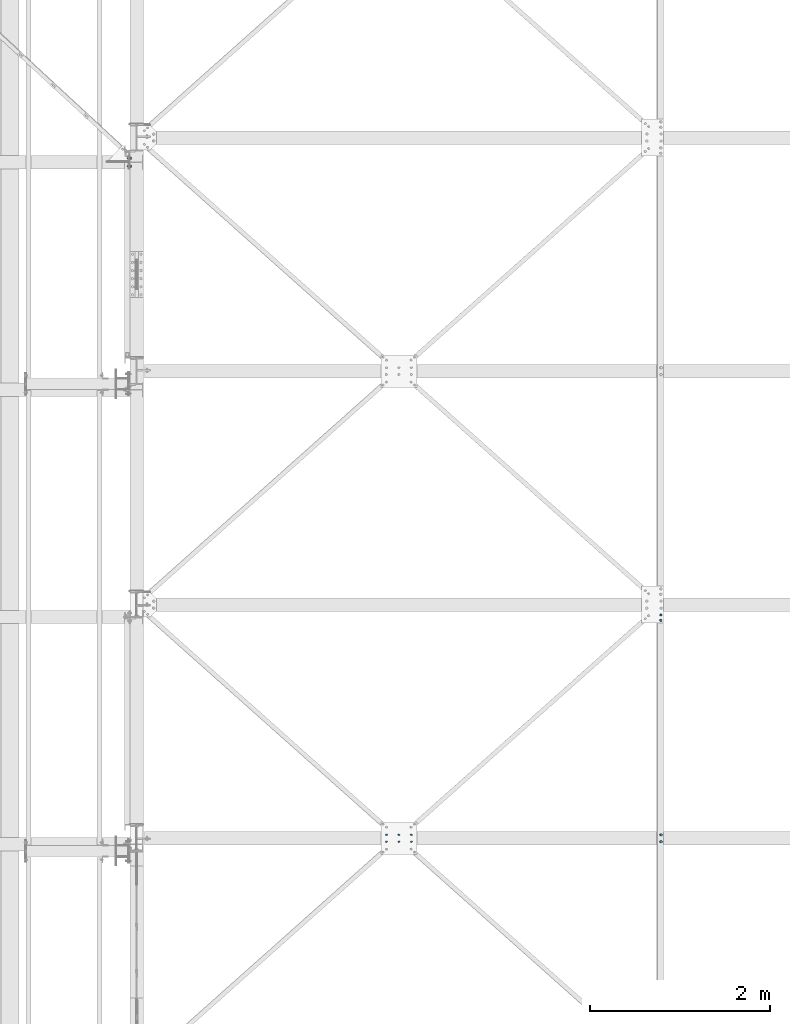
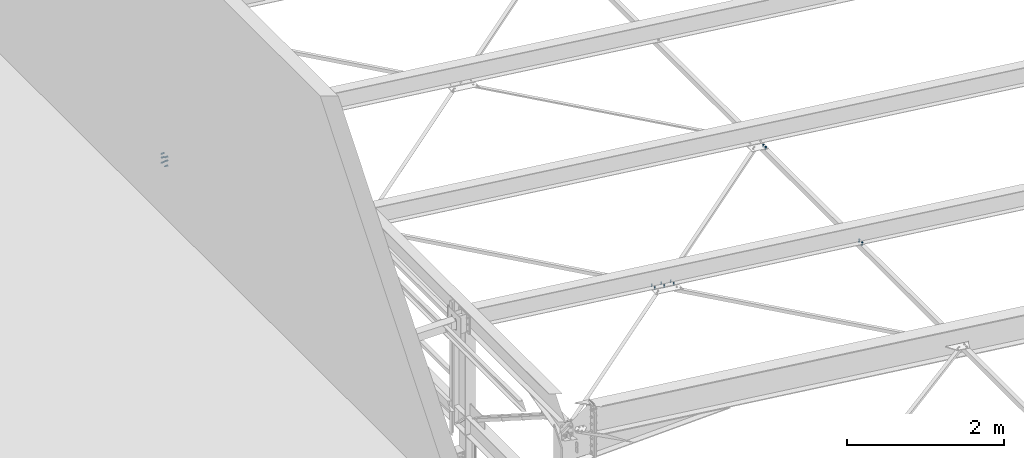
# One storey, part 101 of 3134: 4 mechanical fasteners, 4 elements without a shape of their own.
"""IFC2X3 building model written with IfcOpenShell, lengths in millimetres."""

from ifc_helpers import new_model, si_unit, frame, origin_with_axes, place, context, subcontext, project, spatial, faceted_brep, source, transform, mapped, material, type_object, element, aggregate, save


model = new_model("IFC2X3")

# Units and contexts
model_context = context("Model", 3, precision=1e-05, world=origin_with_axes())
body_context = subcontext(model_context, "Body", "Model", "MODEL_VIEW")
ifc_project = project(units=[si_unit("LENGTHUNIT", "METRE", prefix="MILLI"), si_unit("AREAUNIT", "SQUARE_METRE"), si_unit("VOLUMEUNIT", "CUBIC_METRE"), si_unit("MASSUNIT", "GRAM", prefix="KILO"), si_unit("TIMEUNIT", "SECOND"), si_unit("PLANEANGLEUNIT", "RADIAN"), si_unit("SOLIDANGLEUNIT", "STERADIAN"), si_unit("THERMODYNAMICTEMPERATUREUNIT", "DEGREE_CELSIUS"), si_unit("LUMINOUSINTENSITYUNIT", "LUMEN")], contexts=[model_context])

# Site, building, storey
site_placement = place(None, origin_with_axes())
site = spatial("IfcSite", under=ifc_project, at=site_placement, CompositionType="ELEMENT")
building_placement = place(site_placement, origin_with_axes())
building = spatial("IfcBuilding", under=site, at=building_placement, Name="Undefined", CompositionType="ELEMENT")
storey_placement = place(building_placement, origin_with_axes())
storey = spatial("IfcBuildingStorey", under=building, at=storey_placement, Name="Undefined", CompositionType="ELEMENT", Elevation=0.0)

# Assembly, mechanical fastener
assembly_1_placement = place(storey_placement, origin_with_axes())
assembly_1 = element("IfcElementAssembly", 1, at=assembly_1_placement, inside=storey, AssemblyPlace="NOTDEFINED", PredefinedType="RIGID_FRAME")
ifc_material = material(Name="8.8")
mechanical_fastener_type = type_object("IfcMechanicalFastenerType", Name="Bolt assembly")
shared_shape_1 = source(origin_with_axes(), body_context, "Body", "Brep", [
    faceted_brep([(13.856406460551, -19.199990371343, 0.0), (6.92820323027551, -19.199990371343, 12.0), (-6.92820323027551, -19.199990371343, 12.0), (-13.856406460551, -19.199990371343, 1.69692038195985e-15), (-6.92820323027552, -19.199990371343, -12.0), (6.9282032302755, -19.199990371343, -12.0), (6.9282032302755, -9.19999037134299, -12.0), (-6.92820323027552, -9.19999037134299, -12.0), (-13.856406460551, -9.19999037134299, 1.69692038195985e-15), (-6.92820323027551, -9.19999037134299, 12.0), (6.92820323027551, -9.19999037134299, 12.0), (13.856406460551, -9.19999037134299, 0.0), (8.0, -9.19999037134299, 0.0), (6.92820323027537, -9.19999037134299, 4.00000000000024), (3.99999999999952, -9.19999037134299, 6.92820323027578), (-8.29068785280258e-13, -9.19999037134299, 8.0), (-4.00000000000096, -9.19999037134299, 6.92820323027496), (-6.9282032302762, -9.19999037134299, 3.99999999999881), (-8.0, -9.19999037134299, -1.65813757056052e-12), (-6.92820323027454, -9.19999037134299, -4.00000000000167), (-3.99999999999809, -9.19999037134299, -6.92820323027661), (2.47832457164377e-12, -9.19999037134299, -8.0), (4.00000000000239, -9.19999037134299, -6.92820323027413), (6.92820323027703, -9.19999037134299, -3.99999999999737), (6.92820323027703, 35.8000002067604, -3.99999999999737), (4.00000000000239, 35.8000002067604, -6.92820323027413), (2.47832457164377e-12, 35.8000002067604, -8.0), (-3.99999999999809, 35.8000002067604, -6.92820323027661), (-6.92820323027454, 35.8000002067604, -4.00000000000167), (-8.0, 35.8000002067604, -1.65813757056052e-12), (-6.9282032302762, 35.8000002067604, 3.99999999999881), (-4.00000000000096, 35.8000002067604, 6.92820323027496), (-8.29068785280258e-13, 35.8000002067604, 8.0), (3.99999999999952, 35.8000002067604, 6.92820323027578), (6.92820323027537, 35.8000002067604, 4.00000000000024), (8.0, 35.8000002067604, 0.0), (13.856406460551, 14.9999995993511, 0.0), (6.92820323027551, 14.9999995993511, 12.0), (-6.92820323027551, 14.9999995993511, 12.0), (-13.856406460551, 14.9999995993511, 1.69692038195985e-15), (-6.92820323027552, 14.9999995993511, -12.0), (6.9282032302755, 14.9999995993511, -12.0), (6.9282032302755, 27.9999995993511, -12.0), (-6.92820323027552, 27.9999995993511, -12.0), (-13.856406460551, 27.9999995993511, 1.69692038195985e-15), (-6.92820323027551, 27.9999995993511, 12.0), (6.92820323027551, 27.9999995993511, 12.0), (13.856406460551, 27.9999995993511, 0.0)], [[[0, 1, 2, 3, 4, 5]], [[6, 7, 8, 9, 10, 11]], [[0, 11, 10, 1]], [[1, 10, 9, 2]], [[2, 9, 8, 3]], [[3, 8, 7, 4]], [[4, 7, 6, 5]], [[5, 6, 11, 0]], [[12, 13, 14, 15, 16, 17, 18, 19, 20, 21, 22, 23]], [[24, 25, 26, 27, 28, 29, 30, 31, 32, 33, 34, 35]], [[12, 35, 34, 13]], [[13, 34, 33, 14]], [[14, 33, 32, 15]], [[15, 32, 31, 16]], [[16, 31, 30, 17]], [[17, 30, 29, 18]], [[18, 29, 28, 19]], [[19, 28, 27, 20]], [[20, 27, 26, 21]], [[21, 26, 25, 22]], [[22, 25, 24, 23]], [[23, 24, 35, 12]], [[36, 37, 38, 39, 40, 41]], [[42, 43, 44, 45, 46, 47]], [[36, 47, 46, 37]], [[37, 46, 45, 38]], [[38, 45, 44, 39]], [[39, 44, 43, 40]], [[40, 43, 42, 41]], [[41, 42, 47, 36]]]),
    faceted_brep([(9.0, -9.09999037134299, 0.0), (7.79422863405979, -9.09999037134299, 4.50000000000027), (4.49999999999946, -9.09999037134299, 7.79422863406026), (-9.3270238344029e-13, -9.09999037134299, 9.0), (-4.50000000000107, -9.09999037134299, 7.79422863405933), (-7.79422863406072, -9.09999037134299, 4.49999999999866), (-9.0, -9.09999037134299, -1.86540476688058e-12), (-7.79422863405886, -9.09999037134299, -4.50000000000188), (-4.49999999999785, -9.09999037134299, -7.79422863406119), (2.78811514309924e-12, -9.09999037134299, -9.0), (4.50000000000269, -9.09999037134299, -7.7942286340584), (7.79422863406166, -9.09999037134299, -4.49999999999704), (7.79422863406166, 0.100000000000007, -4.49999999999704), (4.50000000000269, 0.100000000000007, -7.7942286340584), (2.78811514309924e-12, 0.100000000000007, -9.0), (-4.49999999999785, 0.100000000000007, -7.79422863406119), (-7.79422863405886, 0.100000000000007, -4.50000000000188), (-9.0, 0.100000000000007, -1.86540476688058e-12), (-7.79422863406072, 0.100000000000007, 4.49999999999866), (-4.50000000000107, 0.100000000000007, 7.79422863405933), (-9.3270238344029e-13, 0.100000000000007, 9.0), (4.49999999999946, 0.100000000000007, 7.79422863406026), (7.79422863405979, 0.100000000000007, 4.50000000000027), (9.0, 0.100000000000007, 0.0), (9.0, 7.9, 0.0), (7.79422863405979, 7.9, 4.50000000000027), (4.49999999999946, 7.9, 7.79422863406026), (-9.3270238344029e-13, 7.9, 9.0), (-4.50000000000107, 7.9, 7.79422863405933), (-7.79422863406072, 7.9, 4.49999999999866), (-9.0, 7.9, -1.86540476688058e-12), (-7.79422863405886, 7.9, -4.50000000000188), (-4.49999999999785, 7.9, -7.79422863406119), (2.78811514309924e-12, 7.9, -9.0), (4.50000000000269, 7.9, -7.7942286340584), (7.79422863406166, 7.9, -4.49999999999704), (7.79422863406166, 14.9999995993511, -4.49999999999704), (4.50000000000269, 14.9999995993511, -7.7942286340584), (2.78811514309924e-12, 14.9999995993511, -9.0), (-4.49999999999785, 14.9999995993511, -7.79422863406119), (-7.79422863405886, 14.9999995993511, -4.50000000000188), (-9.0, 14.9999995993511, -1.86540476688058e-12), (-7.79422863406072, 14.9999995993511, 4.49999999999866), (-4.50000000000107, 14.9999995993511, 7.79422863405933), (-9.3270238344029e-13, 14.9999995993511, 9.0), (4.49999999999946, 14.9999995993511, 7.79422863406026), (7.79422863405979, 14.9999995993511, 4.50000000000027), (9.0, 14.9999995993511, 0.0)], [[[0, 1, 2, 3, 4, 5, 6, 7, 8, 9, 10, 11]], [[12, 13, 14, 15, 16, 17, 18, 19, 20, 21, 22, 23]], [[0, 23, 22, 1]], [[1, 22, 21, 2]], [[2, 21, 20, 3]], [[3, 20, 19, 4]], [[4, 19, 18, 5]], [[5, 18, 17, 6]], [[6, 17, 16, 7]], [[7, 16, 15, 8]], [[8, 15, 14, 9]], [[9, 14, 13, 10]], [[10, 13, 12, 11]], [[11, 12, 23, 0]], [[24, 25, 26, 27, 28, 29, 30, 31, 32, 33, 34, 35]], [[36, 37, 38, 39, 40, 41, 42, 43, 44, 45, 46, 47]], [[24, 47, 46, 25]], [[25, 46, 45, 26]], [[26, 45, 44, 27]], [[27, 44, 43, 28]], [[28, 43, 42, 29]], [[29, 42, 41, 30]], [[30, 41, 40, 31]], [[31, 40, 39, 32]], [[32, 39, 38, 33]], [[33, 38, 37, 34]], [[34, 37, 36, 35]], [[35, 36, 47, 24]]]),
])
mechanical_fastener_1_placement = place(assembly_1_placement, frame((26687.9849612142, 22012.0, 4806.73358922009), z_axis=(-0.992623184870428, 0.0, 0.121240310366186), x_axis=(0.0, 1.0, 0.0)))
mechanical_fastener_1 = element("IfcMechanicalFastener", 2, at=mechanical_fastener_1_placement, type_object=mechanical_fastener_type, material=ifc_material, Name="Bolt assembly", NominalDiameter=16.0, NominalLength=45.0, context=body_context, shape_type="MappedRepresentation", body=[
    mapped(shared_shape_1, transform((0.0, 0.0, 0.0))),
    mapped(shared_shape_1, transform((76.0, 0.0, 0.0))),
])
aggregate(assembly_1, [mechanical_fastener_1])

assembly_2_placement = place(storey_placement, origin_with_axes())
assembly_2 = element("IfcElementAssembly", 3, at=assembly_2_placement, inside=storey, Name="PL8", AssemblyPlace="NOTDEFINED", PredefinedType="RIGID_FRAME")
shared_shape_2 = source(origin_with_axes(), body_context, "Body", "Brep", [
    faceted_brep([(13.856406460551, -10.0, 0.0), (6.92820323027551, -10.0, 12.0), (-6.92820323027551, -10.0, 12.0), (-13.856406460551, -10.0, 1.69692038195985e-15), (-6.92820323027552, -10.0, -12.0), (6.9282032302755, -10.0, -12.0), (6.9282032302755, 0.0, -12.0), (-6.92820323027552, 0.0, -12.0), (-13.856406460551, 0.0, 1.69692038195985e-15), (-6.92820323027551, 0.0, 12.0), (6.92820323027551, 0.0, 12.0), (13.856406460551, 0.0, 0.0), (8.0, 0.0, 0.0), (6.92820323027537, 0.0, 4.00000000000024), (3.99999999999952, 0.0, 6.92820323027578), (-8.29068785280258e-13, 0.0, 8.0), (-4.00000000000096, 0.0, 6.92820323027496), (-6.9282032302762, 0.0, 3.99999999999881), (-8.0, 0.0, -1.65813757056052e-12), (-6.92820323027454, 0.0, -4.00000000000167), (-3.99999999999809, 0.0, -6.92820323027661), (2.47832457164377e-12, 0.0, -8.0), (4.00000000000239, 0.0, -6.92820323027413), (6.92820323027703, 0.0, -3.99999999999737), (6.92820323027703, 35.0000000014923, -3.99999999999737), (4.00000000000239, 35.0000000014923, -6.92820323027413), (2.47832457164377e-12, 35.0000000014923, -8.0), (-3.99999999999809, 35.0000000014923, -6.92820323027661), (-6.92820323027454, 35.0000000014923, -4.00000000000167), (-8.0, 35.0000000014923, -1.65813757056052e-12), (-6.9282032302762, 35.0000000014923, 3.99999999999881), (-4.00000000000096, 35.0000000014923, 6.92820323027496), (-8.29068785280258e-13, 35.0000000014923, 8.0), (3.99999999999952, 35.0000000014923, 6.92820323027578), (6.92820323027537, 35.0000000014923, 4.00000000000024), (8.0, 35.0000000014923, 0.0), (13.856406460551, 14.9999995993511, 0.0), (6.92820323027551, 14.9999995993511, 12.0), (-6.92820323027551, 14.9999995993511, 12.0), (-13.856406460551, 14.9999995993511, 1.69692038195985e-15), (-6.92820323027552, 14.9999995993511, -12.0), (6.9282032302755, 14.9999995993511, -12.0), (6.9282032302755, 27.9999995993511, -12.0), (-6.92820323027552, 27.9999995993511, -12.0), (-13.856406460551, 27.9999995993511, 1.69692038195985e-15), (-6.92820323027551, 27.9999995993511, 12.0), (6.92820323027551, 27.9999995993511, 12.0), (13.856406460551, 27.9999995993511, 0.0)], [[[0, 1, 2, 3, 4, 5]], [[6, 7, 8, 9, 10, 11]], [[0, 11, 10, 1]], [[1, 10, 9, 2]], [[2, 9, 8, 3]], [[3, 8, 7, 4]], [[4, 7, 6, 5]], [[5, 6, 11, 0]], [[12, 13, 14, 15, 16, 17, 18, 19, 20, 21, 22, 23]], [[24, 25, 26, 27, 28, 29, 30, 31, 32, 33, 34, 35]], [[12, 35, 34, 13]], [[13, 34, 33, 14]], [[14, 33, 32, 15]], [[15, 32, 31, 16]], [[16, 31, 30, 17]], [[17, 30, 29, 18]], [[18, 29, 28, 19]], [[19, 28, 27, 20]], [[20, 27, 26, 21]], [[21, 26, 25, 22]], [[22, 25, 24, 23]], [[23, 24, 35, 12]], [[36, 37, 38, 39, 40, 41]], [[42, 43, 44, 45, 46, 47]], [[36, 47, 46, 37]], [[37, 46, 45, 38]], [[38, 45, 44, 39]], [[39, 44, 43, 40]], [[40, 43, 42, 41]], [[41, 42, 47, 36]]]),
    faceted_brep([(9.0, 7.9, 0.0), (7.79422863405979, 7.9, 4.50000000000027), (4.49999999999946, 7.9, 7.79422863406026), (-9.3270238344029e-13, 7.9, 9.0), (-4.50000000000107, 7.9, 7.79422863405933), (-7.79422863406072, 7.9, 4.49999999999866), (-9.0, 7.9, -1.86540476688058e-12), (-7.79422863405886, 7.9, -4.50000000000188), (-4.49999999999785, 7.9, -7.79422863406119), (2.78811514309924e-12, 7.9, -9.0), (4.50000000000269, 7.9, -7.7942286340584), (7.79422863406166, 7.9, -4.49999999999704), (7.79422863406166, 14.9999995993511, -4.49999999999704), (4.50000000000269, 14.9999995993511, -7.7942286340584), (2.78811514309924e-12, 14.9999995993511, -9.0), (-4.49999999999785, 14.9999995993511, -7.79422863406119), (-7.79422863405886, 14.9999995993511, -4.50000000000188), (-9.0, 14.9999995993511, -1.86540476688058e-12), (-7.79422863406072, 14.9999995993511, 4.49999999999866), (-4.50000000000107, 14.9999995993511, 7.79422863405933), (-9.3270238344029e-13, 14.9999995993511, 9.0), (4.49999999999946, 14.9999995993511, 7.79422863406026), (7.79422863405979, 14.9999995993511, 4.50000000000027), (9.0, 14.9999995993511, 0.0), (9.0, 0.100000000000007, 0.0), (7.79422863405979, 0.100000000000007, 4.50000000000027), (4.49999999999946, 0.100000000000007, 7.79422863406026), (-9.3270238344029e-13, 0.100000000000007, 9.0), (-4.50000000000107, 0.100000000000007, 7.79422863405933), (-7.79422863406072, 0.100000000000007, 4.49999999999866), (-9.0, 0.100000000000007, -1.86540476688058e-12), (-7.79422863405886, 0.100000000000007, -4.50000000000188), (-4.49999999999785, 0.100000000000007, -7.79422863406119), (2.78811514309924e-12, 0.100000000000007, -9.0), (4.50000000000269, 0.100000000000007, -7.7942286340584), (7.79422863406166, 0.100000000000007, -4.49999999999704), (7.79422863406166, 8.1, -4.49999999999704), (4.50000000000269, 8.1, -7.7942286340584), (2.78811514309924e-12, 8.1, -9.0), (-4.49999999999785, 8.1, -7.79422863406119), (-7.79422863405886, 8.1, -4.50000000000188), (-9.0, 8.1, -1.86540476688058e-12), (-7.79422863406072, 8.1, 4.49999999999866), (-4.50000000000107, 8.1, 7.79422863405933), (-9.3270238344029e-13, 8.1, 9.0), (4.49999999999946, 8.1, 7.79422863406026), (7.79422863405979, 8.1, 4.50000000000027), (9.0, 8.1, 0.0)], [[[0, 1, 2, 3, 4, 5, 6, 7, 8, 9, 10, 11]], [[12, 13, 14, 15, 16, 17, 18, 19, 20, 21, 22, 23]], [[0, 23, 22, 1]], [[1, 22, 21, 2]], [[2, 21, 20, 3]], [[3, 20, 19, 4]], [[4, 19, 18, 5]], [[5, 18, 17, 6]], [[6, 17, 16, 7]], [[7, 16, 15, 8]], [[8, 15, 14, 9]], [[9, 14, 13, 10]], [[10, 13, 12, 11]], [[11, 12, 23, 0]], [[24, 25, 26, 27, 28, 29, 30, 31, 32, 33, 34, 35]], [[36, 37, 38, 39, 40, 41, 42, 43, 44, 45, 46, 47]], [[24, 47, 46, 25]], [[25, 46, 45, 26]], [[26, 45, 44, 27]], [[27, 44, 43, 28]], [[28, 43, 42, 29]], [[29, 42, 41, 30]], [[30, 41, 40, 31]], [[31, 40, 39, 32]], [[32, 39, 38, 33]], [[33, 38, 37, 34]], [[34, 37, 36, 35]], [[35, 36, 47, 24]]]),
])
mechanical_fastener_2_placement = place(assembly_2_placement, frame((26687.9849612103, 24535.0, 4806.73358922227), z_axis=(0.992623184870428, 0.0, -0.121240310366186), x_axis=(0.0, -1.0, 0.0)))
mechanical_fastener_2 = element("IfcMechanicalFastener", 4, at=mechanical_fastener_2_placement, type_object=mechanical_fastener_type, material=ifc_material, Name="Bolt assembly", NominalDiameter=16.0, NominalLength=35.0, context=body_context, shape_type="MappedRepresentation", body=[
    mapped(shared_shape_2, transform((0.0, 0.0, 0.0))),
    mapped(shared_shape_2, transform((59.9999999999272, 0.0, 5.40239852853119e-10))),
])
aggregate(assembly_2, [mechanical_fastener_2])

assembly_3_placement = place(storey_placement, origin_with_axes())
assembly_3 = element("IfcElementAssembly", 5, at=assembly_3_placement, inside=storey, Name="300", AssemblyPlace="NOTDEFINED", PredefinedType="RIGID_FRAME")
shared_shape_3 = source(origin_with_axes(), body_context, "Body", "Brep", [
    faceted_brep([(10.9696551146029, -17.1999998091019, 0.0), (5.48482755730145, -17.1999998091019, 9.5), (-5.48482755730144, -17.1999998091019, 9.5), (-10.9696551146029, -17.1999998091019, 1.34339530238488e-15), (-5.48482755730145, -17.1999998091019, -9.5), (5.48482755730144, -17.1999998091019, -9.50000000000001), (5.48482755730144, -9.19999978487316, -9.50000000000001), (-5.48482755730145, -9.19999978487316, -9.5), (-10.9696551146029, -9.19999978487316, 1.34339530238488e-15), (-5.48482755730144, -9.19999978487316, 9.5), (5.48482755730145, -9.19999978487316, 9.5), (10.9696551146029, -9.19999978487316, 0.0), (6.0, -9.19999978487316, 0.0), (5.19615242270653, -9.19999978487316, 3.00000000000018), (2.99999999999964, -9.19999978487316, 5.19615242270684), (-6.21801588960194e-13, -9.19999978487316, 6.0), (-3.00000000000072, -9.19999978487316, 5.19615242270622), (-5.19615242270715, -9.19999978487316, 2.9999999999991), (-6.0, -9.19999978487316, -1.24360317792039e-12), (-5.19615242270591, -9.19999978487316, -3.00000000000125), (-2.99999999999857, -9.19999978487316, -5.19615242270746), (1.85874342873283e-12, -9.19999978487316, -6.0), (3.00000000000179, -9.19999978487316, -5.1961524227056), (5.19615242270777, -9.19999978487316, -2.99999999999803), (5.19615242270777, 25.8000002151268, -2.99999999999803), (3.00000000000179, 25.8000002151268, -5.1961524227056), (1.85874342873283e-12, 25.8000002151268, -6.0), (-2.99999999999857, 25.8000002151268, -5.19615242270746), (-5.19615242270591, 25.8000002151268, -3.00000000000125), (-6.0, 25.8000002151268, -1.24360317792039e-12), (-5.19615242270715, 25.8000002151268, 2.9999999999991), (-3.00000000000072, 25.8000002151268, 5.19615242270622), (-6.21801588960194e-13, 25.8000002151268, 6.0), (2.99999999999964, 25.8000002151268, 5.19615242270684), (5.19615242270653, 25.8000002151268, 3.00000000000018), (6.0, 25.8000002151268, 0.0), (10.9696551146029, 8.0, 0.0), (5.48482755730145, 8.0, 9.5), (-5.48482755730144, 8.0, 9.5), (-10.9696551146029, 8.0, 1.34339530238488e-15), (-5.48482755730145, 8.0, -9.5), (5.48482755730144, 8.0, -9.50000000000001), (5.48482755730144, 18.0, -9.50000000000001), (-5.48482755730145, 18.0, -9.5), (-10.9696551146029, 18.0, 1.34339530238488e-15), (-5.48482755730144, 18.0, 9.5), (5.48482755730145, 18.0, 9.5), (10.9696551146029, 18.0, 0.0)], [[[0, 1, 2, 3, 4, 5]], [[6, 7, 8, 9, 10, 11]], [[0, 11, 10, 1]], [[1, 10, 9, 2]], [[2, 9, 8, 3]], [[3, 8, 7, 4]], [[4, 7, 6, 5]], [[5, 6, 11, 0]], [[12, 13, 14, 15, 16, 17, 18, 19, 20, 21, 22, 23]], [[24, 25, 26, 27, 28, 29, 30, 31, 32, 33, 34, 35]], [[12, 35, 34, 13]], [[13, 34, 33, 14]], [[14, 33, 32, 15]], [[15, 32, 31, 16]], [[16, 31, 30, 17]], [[17, 30, 29, 18]], [[18, 29, 28, 19]], [[19, 28, 27, 20]], [[20, 27, 26, 21]], [[21, 26, 25, 22]], [[22, 25, 24, 23]], [[23, 24, 35, 12]], [[36, 37, 38, 39, 40, 41]], [[42, 43, 44, 45, 46, 47]], [[36, 47, 46, 37]], [[37, 46, 45, 38]], [[38, 45, 44, 39]], [[39, 44, 43, 40]], [[40, 43, 42, 41]], [[41, 42, 47, 36]]]),
    faceted_brep([(7.0, -0.1, 0.0), (6.06217782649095, -0.1, 3.50000000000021), (3.49999999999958, -0.1, 6.06217782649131), (-7.25435187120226e-13, -0.1, 7.0), (-3.50000000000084, -0.1, 6.06217782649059), (-6.06217782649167, -0.1, 3.49999999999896), (-7.0, -0.1, -1.45087037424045e-12), (-6.06217782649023, -0.1, -3.50000000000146), (-3.49999999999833, -0.1, -6.06217782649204), (2.1685340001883e-12, -0.1, -7.0), (3.50000000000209, -0.1, -6.06217782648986), (6.0621778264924, -0.1, -3.4999999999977), (6.0621778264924, 8.0000000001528, -3.4999999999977), (3.50000000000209, 8.0000000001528, -6.06217782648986), (2.1685340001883e-12, 8.0000000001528, -7.0), (-3.49999999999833, 8.0000000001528, -6.06217782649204), (-6.06217782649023, 8.0000000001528, -3.50000000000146), (-7.0, 8.0000000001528, -1.45087037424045e-12), (-6.06217782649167, 8.0000000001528, 3.49999999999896), (-3.50000000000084, 8.0000000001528, 6.06217782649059), (-7.25435187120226e-13, 8.0000000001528, 7.0), (3.49999999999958, 8.0000000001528, 6.06217782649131), (6.06217782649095, 8.0000000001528, 3.50000000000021), (7.0, 8.0000000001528, 0.0), (7.0, -9.09999980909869, 0.0), (6.06217782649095, -9.09999980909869, 3.50000000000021), (3.49999999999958, -9.09999980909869, 6.06217782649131), (-7.25435187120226e-13, -9.09999980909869, 7.0), (-3.50000000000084, -9.09999980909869, 6.06217782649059), (-6.06217782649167, -9.09999980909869, 3.49999999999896), (-7.0, -9.09999980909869, -1.45087037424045e-12), (-6.06217782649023, -9.09999980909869, -3.50000000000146), (-3.49999999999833, -9.09999980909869, -6.06217782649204), (2.1685340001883e-12, -9.09999980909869, -7.0), (3.50000000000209, -9.09999980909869, -6.06217782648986), (6.0621778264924, -9.09999980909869, -3.4999999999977), (6.0621778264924, 0.0999999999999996, -3.4999999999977), (3.50000000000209, 0.0999999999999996, -6.06217782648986), (2.1685340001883e-12, 0.0999999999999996, -7.0), (-3.49999999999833, 0.0999999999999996, -6.06217782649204), (-6.06217782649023, 0.0999999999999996, -3.50000000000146), (-7.0, 0.0999999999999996, -1.45087037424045e-12), (-6.06217782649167, 0.0999999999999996, 3.49999999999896), (-3.50000000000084, 0.0999999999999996, 6.06217782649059), (-7.25435187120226e-13, 0.0999999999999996, 7.0), (3.49999999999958, 0.0999999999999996, 6.06217782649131), (6.06217782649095, 0.0999999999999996, 3.50000000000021), (7.0, 0.0999999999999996, 0.0)], [[[0, 1, 2, 3, 4, 5, 6, 7, 8, 9, 10, 11]], [[12, 13, 14, 15, 16, 17, 18, 19, 20, 21, 22, 23]], [[0, 23, 22, 1]], [[1, 22, 21, 2]], [[2, 21, 20, 3]], [[3, 20, 19, 4]], [[4, 19, 18, 5]], [[5, 18, 17, 6]], [[6, 17, 16, 7]], [[7, 16, 15, 8]], [[8, 15, 14, 9]], [[9, 14, 13, 10]], [[10, 13, 12, 11]], [[11, 12, 23, 0]], [[24, 25, 26, 27, 28, 29, 30, 31, 32, 33, 34, 35]], [[36, 37, 38, 39, 40, 41, 42, 43, 44, 45, 46, 47]], [[24, 47, 46, 25]], [[25, 46, 45, 26]], [[26, 45, 44, 27]], [[27, 44, 43, 28]], [[28, 43, 42, 29]], [[29, 42, 41, 30]], [[30, 41, 40, 31]], [[31, 40, 39, 32]], [[32, 39, 38, 33]], [[33, 38, 37, 34]], [[34, 37, 36, 35]], [[35, 36, 47, 24]]]),
])
mechanical_fastener_3_placement = place(assembly_3_placement, frame((23908.2022067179, 22050.0, 5146.25993624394), z_axis=(0.0, -1.0, 0.0), x_axis=(-0.992623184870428, 0.0, 0.121240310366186)))
mechanical_fastener_3 = element("IfcMechanicalFastener", 6, at=mechanical_fastener_3_placement, type_object=mechanical_fastener_type, material=ifc_material, Name="Bolt assembly", NominalDiameter=12.0, NominalLength=35.0, context=body_context, shape_type="MappedRepresentation", body=[
    mapped(shared_shape_3, transform((0.0, 0.0, -38.0))),
    mapped(shared_shape_3, transform((140.000000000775, 5.85714587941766e-10, -38.0))),
    mapped(shared_shape_3, transform((279.999999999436, -4.74756234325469e-10, -38.0))),
    mapped(shared_shape_3, transform((0.0, 0.0, 38.0))),
    mapped(shared_shape_3, transform((140.000000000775, 5.85714587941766e-10, 38.0))),
    mapped(shared_shape_3, transform((279.999999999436, -4.74756234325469e-10, 38.0))),
])
aggregate(assembly_3, [mechanical_fastener_3])

assembly_4_placement = place(storey_placement, origin_with_axes())
assembly_4 = element("IfcElementAssembly", 7, at=assembly_4_placement, inside=storey, Name="300", AssemblyPlace="NOTDEFINED", PredefinedType="RIGID_FRAME")
shared_shape_4 = source(origin_with_axes(), body_context, "Body", "Brep", [
    faceted_brep([(13.856406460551, -28.9999999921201, 0.0), (6.92820323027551, -28.9999999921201, 12.0), (-6.92820323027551, -28.9999999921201, 12.0), (-13.856406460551, -28.9999999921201, 1.69692038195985e-15), (-6.92820323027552, -28.9999999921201, -12.0), (6.9282032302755, -28.9999999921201, -12.0), (6.9282032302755, -19.0, -12.0), (-6.92820323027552, -19.0, -12.0), (-13.856406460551, -19.0, 1.69692038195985e-15), (-6.92820323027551, -19.0, 12.0), (6.92820323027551, -19.0, 12.0), (13.856406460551, -19.0, 0.0), (8.0, -18.9999999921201, 0.0), (6.92820323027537, -18.9999999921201, 4.00000000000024), (3.99999999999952, -18.9999999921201, 6.92820323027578), (-8.29068785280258e-13, -18.9999999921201, 8.0), (-4.00000000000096, -18.9999999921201, 6.92820323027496), (-6.9282032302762, -18.9999999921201, 3.99999999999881), (-8.0, -18.9999999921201, -1.65813757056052e-12), (-6.92820323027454, -18.9999999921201, -4.00000000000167), (-3.99999999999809, -18.9999999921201, -6.92820323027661), (2.47832457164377e-12, -18.9999999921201, -8.0), (4.00000000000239, -18.9999999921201, -6.92820323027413), (6.92820323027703, -18.9999999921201, -3.99999999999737), (6.92820323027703, 21.0000000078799, -3.99999999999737), (4.00000000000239, 21.0000000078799, -6.92820323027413), (2.47832457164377e-12, 21.0000000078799, -8.0), (-3.99999999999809, 21.0000000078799, -6.92820323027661), (-6.92820323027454, 21.0000000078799, -4.00000000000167), (-8.0, 21.0000000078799, -1.65813757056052e-12), (-6.9282032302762, 21.0000000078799, 3.99999999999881), (-4.00000000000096, 21.0000000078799, 6.92820323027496), (-8.29068785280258e-13, 21.0000000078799, 8.0), (3.99999999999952, 21.0000000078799, 6.92820323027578), (6.92820323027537, 21.0000000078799, 4.00000000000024), (8.0, 21.0000000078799, 0.0), (13.856406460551, 0.0, 0.0), (6.92820323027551, 0.0, 12.0), (-6.92820323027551, 0.0, 12.0), (-13.856406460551, 0.0, 1.69692038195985e-15), (-6.92820323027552, 0.0, -12.0), (6.9282032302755, 0.0, -12.0), (6.9282032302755, 12.9999996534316, -12.0), (-6.92820323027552, 12.9999996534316, -12.0), (-13.856406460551, 12.9999996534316, 1.69692038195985e-15), (-6.92820323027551, 12.9999996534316, 12.0), (6.92820323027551, 12.9999996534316, 12.0), (13.856406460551, 12.9999996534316, 0.0)], [[[0, 1, 2, 3, 4, 5]], [[6, 7, 8, 9, 10, 11]], [[0, 11, 10, 1]], [[1, 10, 9, 2]], [[2, 9, 8, 3]], [[3, 8, 7, 4]], [[4, 7, 6, 5]], [[5, 6, 11, 0]], [[12, 13, 14, 15, 16, 17, 18, 19, 20, 21, 22, 23]], [[24, 25, 26, 27, 28, 29, 30, 31, 32, 33, 34, 35]], [[12, 35, 34, 13]], [[13, 34, 33, 14]], [[14, 33, 32, 15]], [[15, 32, 31, 16]], [[16, 31, 30, 17]], [[17, 30, 29, 18]], [[18, 29, 28, 19]], [[19, 28, 27, 20]], [[20, 27, 26, 21]], [[21, 26, 25, 22]], [[22, 25, 24, 23]], [[23, 24, 35, 12]], [[36, 37, 38, 39, 40, 41]], [[42, 43, 44, 45, 46, 47]], [[36, 47, 46, 37]], [[37, 46, 45, 38]], [[38, 45, 44, 39]], [[39, 44, 43, 40]], [[40, 43, 42, 41]], [[41, 42, 47, 36]]]),
    faceted_brep([(9.0, -18.8999999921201, 0.0), (7.79422863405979, -18.8999999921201, 4.50000000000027), (4.49999999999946, -18.8999999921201, 7.79422863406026), (-9.3270238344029e-13, -18.8999999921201, 9.0), (-4.50000000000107, -18.8999999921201, 7.79422863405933), (-7.79422863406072, -18.8999999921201, 4.49999999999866), (-9.0, -18.8999999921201, -1.86540476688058e-12), (-7.79422863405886, -18.8999999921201, -4.50000000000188), (-4.49999999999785, -18.8999999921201, -7.79422863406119), (2.78811514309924e-12, -18.8999999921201, -9.0), (4.50000000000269, -18.8999999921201, -7.7942286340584), (7.79422863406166, -18.8999999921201, -4.49999999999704), (7.79422863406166, -9.89999997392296, -4.49999999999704), (4.50000000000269, -9.89999997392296, -7.7942286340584), (2.78811514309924e-12, -9.89999997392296, -9.0), (-4.49999999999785, -9.89999997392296, -7.79422863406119), (-7.79422863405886, -9.89999997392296, -4.50000000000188), (-9.0, -9.89999997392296, -1.86540476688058e-12), (-7.79422863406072, -9.89999997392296, 4.49999999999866), (-4.50000000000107, -9.89999997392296, 7.79422863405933), (-9.3270238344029e-13, -9.89999997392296, 9.0), (4.49999999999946, -9.89999997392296, 7.79422863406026), (7.79422863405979, -9.89999997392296, 4.50000000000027), (9.0, -9.89999997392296, 0.0), (9.0, -10.1000003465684, 0.0), (7.79422863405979, -10.1000003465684, 4.50000000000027), (4.49999999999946, -10.1000003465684, 7.79422863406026), (-9.3270238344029e-13, -10.1000003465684, 9.0), (-4.50000000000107, -10.1000003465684, 7.79422863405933), (-7.79422863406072, -10.1000003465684, 4.49999999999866), (-9.0, -10.1000003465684, -1.86540476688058e-12), (-7.79422863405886, -10.1000003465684, -4.50000000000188), (-4.49999999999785, -10.1000003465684, -7.79422863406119), (2.78811514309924e-12, -10.1000003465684, -9.0), (4.50000000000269, -10.1000003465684, -7.7942286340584), (7.79422863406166, -10.1000003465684, -4.49999999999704), (7.79422863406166, -3.46568413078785e-07, -4.49999999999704), (4.50000000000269, -3.46568413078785e-07, -7.7942286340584), (2.78811514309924e-12, -3.46568413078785e-07, -9.0), (-4.49999999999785, -3.46568413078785e-07, -7.79422863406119), (-7.79422863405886, -3.46568413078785e-07, -4.50000000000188), (-9.0, -3.46568413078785e-07, -1.86540476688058e-12), (-7.79422863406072, -3.46568413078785e-07, 4.49999999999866), (-4.50000000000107, -3.46568413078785e-07, 7.79422863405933), (-9.3270238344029e-13, -3.46568413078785e-07, 9.0), (4.49999999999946, -3.46568413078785e-07, 7.79422863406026), (7.79422863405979, -3.46568413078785e-07, 4.50000000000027), (9.0, -3.46568413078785e-07, 0.0)], [[[0, 1, 2, 3, 4, 5, 6, 7, 8, 9, 10, 11]], [[12, 13, 14, 15, 16, 17, 18, 19, 20, 21, 22, 23]], [[0, 23, 22, 1]], [[1, 22, 21, 2]], [[2, 21, 20, 3]], [[3, 20, 19, 4]], [[4, 19, 18, 5]], [[5, 18, 17, 6]], [[6, 17, 16, 7]], [[7, 16, 15, 8]], [[8, 15, 14, 9]], [[9, 14, 13, 10]], [[10, 13, 12, 11]], [[11, 12, 23, 0]], [[24, 25, 26, 27, 28, 29, 30, 31, 32, 33, 34, 35]], [[36, 37, 38, 39, 40, 41, 42, 43, 44, 45, 46, 47]], [[24, 47, 46, 25]], [[25, 46, 45, 26]], [[26, 45, 44, 27]], [[27, 44, 43, 28]], [[28, 43, 42, 29]], [[29, 42, 41, 30]], [[30, 41, 40, 31]], [[31, 40, 39, 32]], [[32, 39, 38, 33]], [[33, 38, 37, 34]], [[34, 37, 36, 35]], [[35, 36, 47, 24]]]),
])
mechanical_fastener_4_placement = place(assembly_4_placement, frame((20764.0000000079, 29575.0, 3663.33404423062), z_axis=(0.0, 1.0, 0.0), x_axis=(0.0, 0.0, -1.0)))
mechanical_fastener_4 = element("IfcMechanicalFastener", 8, at=mechanical_fastener_4_placement, type_object=mechanical_fastener_type, material=ifc_material, Name="Bolt assembly", NominalDiameter=16.0, NominalLength=40.0, context=body_context, shape_type="MappedRepresentation", body=[
    mapped(shared_shape_4, transform((0.0, 0.0, -45.0))),
    mapped(shared_shape_4, transform((60.0, 0.0, -45.0))),
    mapped(shared_shape_4, transform((140.0, 0.0, -45.0))),
    mapped(shared_shape_4, transform((0.0, 0.0, 45.0))),
    mapped(shared_shape_4, transform((60.0, 0.0, 45.0))),
    mapped(shared_shape_4, transform((140.0, 0.0, 45.0))),
])
aggregate(assembly_4, [mechanical_fastener_4])

save(model, "model.ifc")
